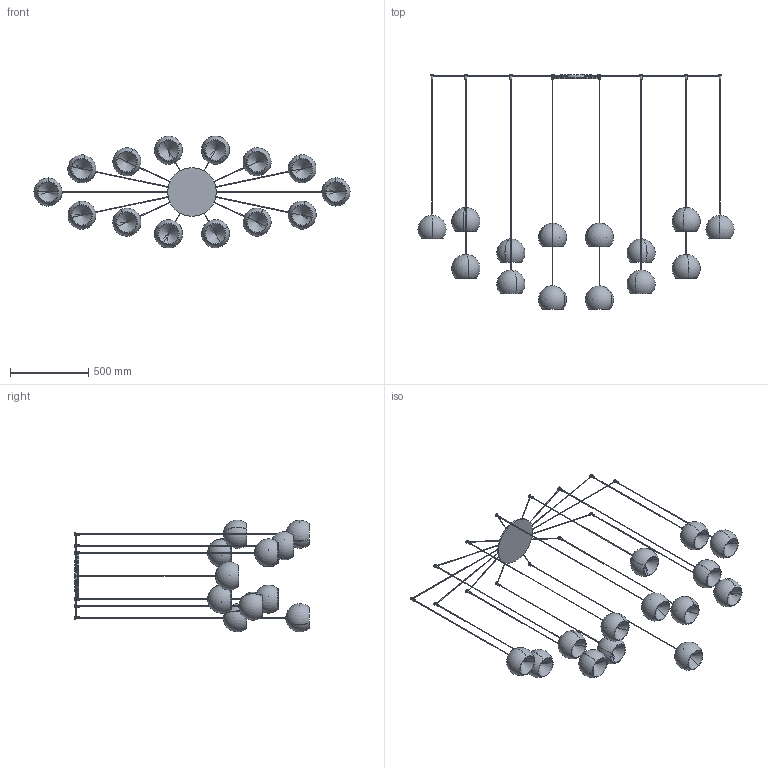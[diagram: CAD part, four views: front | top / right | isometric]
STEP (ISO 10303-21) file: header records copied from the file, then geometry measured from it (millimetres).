
FILE_DESCRIPTION (( 'STEP AP203' ), '1' );
FILE_NAME ('CHR14-00-CHERRY_14 sospensione.STEP', '2024-07-31T08:42:08', ( '' ), ( '' ), 'SwSTEP 2.0', 'SolidWorks 2022', '' );
FILE_SCHEMA (( 'CONFIG_CONTROL_DESIGN' ));
Length unit declared in the file: millimetre
Products named in the file (9): CHERRY_Lampada singola Diam.180_H=1500; CHERRY_Lampada singola Diam.180_H=1800; CHERRY_Lampada singola Diam.180_H=2000; CHERRY_Lampada singola Diam.180_H=1950; CHERRY_Rosone diam.310_Cherry 14<A macchina>; CHERRY_Lampada singola Diam.180_H=1900; CHERRY_Lampada singola Diam.180_H=1700; CHERRY_Lampada singola Diam.180_H=1600; CHR14-00-CHERRY_14 sospensione
Assembly tree (15 placements, depth 2):
  CHR14-00-CHERRY_14 sospensione
    CHERRY_Rosone diam.310_Cherry 14<A macchina>
    CHERRY_Lampada singola Diam.180_H=1950  x2
    CHERRY_Lampada singola Diam.180_H=2000  x2
    CHERRY_Lampada singola Diam.180_H=1800  x2
    CHERRY_Lampada singola Diam.180_H=1900  x2
    CHERRY_Lampada singola Diam.180_H=1500  x2
    CHERRY_Lampada singola Diam.180_H=1700  x2
    CHERRY_Lampada singola Diam.180_H=1600  x2
Bounding box: 2020 x 1500 x 714 mm (x, y, z)
Volume: 4141539 mm3; surface area: 3398069.2 mm2
Topology: 70 solids, 70 shells, 525 faces, 1258 edges, 790 vertices
Faces by surface type: cylinder 256, plane 157, sphere 56, cone 56
Entity records: 9429 total; most frequent: CARTESIAN_POINT 2007, DIRECTION 1436, ORIENTED_EDGE 1200, AXIS2_PLACEMENT_3D 635, EDGE_CURVE 600, VERTEX_POINT 398, EDGE_LOOP 330, CIRCLE 316
